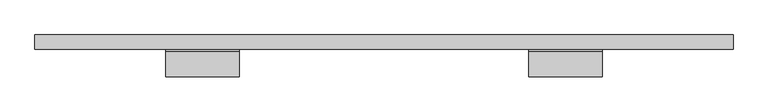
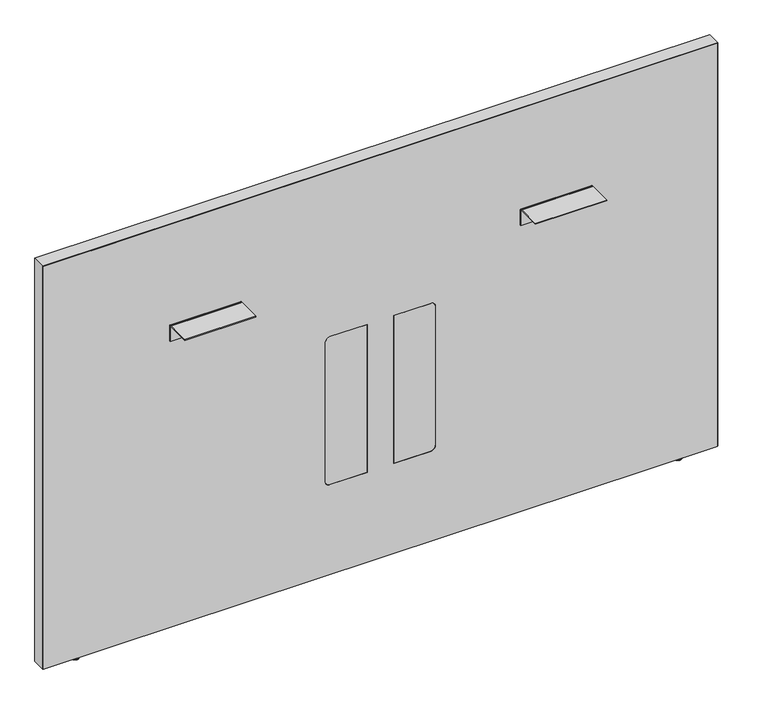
"""IFC4 building model written with IfcOpenShell, lengths in millimetres: furniture geometry, Steelcase - Answer Solution - Boundary Screen - Straight - Spanning : 36H x 57W."""

import ifcopenshell
import ifcopenshell.guid

model = None  # the IFC model being written
_history = None  # IfcOwnerHistory: only IFC2X3 demands one
_inside = {}  # id of a spatial element -> (the spatial element, [elements in it])
_under = {}  # id of a project, library or spatial element -> (it, [spatial elements below it])
_declared = {}  # id of a project -> (the project, [libraries it declares])
_typed = {}  # id of a type object -> (the type object, [elements of that type])
_made_of = {}  # id of a material, layer set ... -> (it, [elements and type objects made of it])


def new_model(schema):
    """Start an empty IFC model of exactly this schema.

    Asked for "IFC4X3", IfcOpenShell would pick the latest addendum, in which some entities
    have other attributes; the version numbers below select the first issue.
    IFC2X3 requires an IfcOwnerHistory on every rooted entity: one is made here for all.
    """
    global model, _history
    if schema == "IFC4X3":
        model = ifcopenshell.file(schema_version=(4, 3, 0, 0))
    else:
        model = ifcopenshell.file(schema=schema)
    _inside.clear()
    _under.clear()
    _declared.clear()
    _typed.clear()
    _made_of.clear()
    _history = None
    if model.schema == "IFC2X3":
        org = make("IfcOrganization", Name="unknown")
        user = make(
            "IfcPersonAndOrganization",
            ThePerson=make("IfcPerson", FamilyName="unknown"),
            TheOrganization=org,
        )
        app = make(
            "IfcApplication",
            ApplicationDeveloper=org,
            Version="unknown",
            ApplicationFullName="unknown",
            ApplicationIdentifier="unknown",
        )
        _history = make(
            "IfcOwnerHistory",
            OwningUser=user,
            OwningApplication=app,
            ChangeAction="ADDED",
            CreationDate=0,
        )
    return model


def make(cls, **values):
    """One entity of the class cls with the attributes given. An attribute that is None is left unset."""
    return model.create_entity(
        cls, **{name: value for name, value in values.items() if value is not None}
    )


def rooted(cls, **values):
    """An entity with a GlobalId (a new one), such as an element, a storey or a relation."""
    return make(cls, GlobalId=ifcopenshell.guid.new(), OwnerHistory=_history, **values)


def si_unit(unit_type, name, prefix=None):
    """IfcSIUnit, for example si_unit("LENGTHUNIT", "METRE", prefix="MILLI")."""
    return make("IfcSIUnit", UnitType=unit_type, Prefix=prefix, Name=name)


def assignment(units):
    """IfcUnitAssignment: the units of a project."""
    return None if units is None else make("IfcUnitAssignment", Units=units)


def point(xyz):
    """IfcCartesianPoint."""
    return None if xyz is None else make("IfcCartesianPoint", Coordinates=xyz)


def direction(xyz):
    """IfcDirection."""
    return None if xyz is None else make("IfcDirection", DirectionRatios=xyz)


def frame(location, z_axis=None, x_axis=None):
    """IfcAxis2Placement3D, a coordinate frame: its origin and axes. An axis left out is left unset."""
    return make(
        "IfcAxis2Placement3D",
        Location=point(location),
        Axis=direction(z_axis),
        RefDirection=direction(x_axis),
    )


def frame_2d(location, x_axis=None):
    """IfcAxis2Placement2D, a coordinate frame in the plane: its origin and x axis."""
    return make(
        "IfcAxis2Placement2D", Location=point(location), RefDirection=direction(x_axis)
    )


def origin():
    """The frame at (0, 0, 0) with its axes left unset."""
    return frame((0.0, 0.0, 0.0))


def place(relative_to, where):
    """IfcLocalPlacement: puts the frame where relative to a parent placement (None: the world)."""
    return make(
        "IfcLocalPlacement", PlacementRelTo=relative_to, RelativePlacement=where
    )


def context(
    kind, dimensions, precision=None, world=None, true_north=None, identifier=None
):
    """IfcGeometricRepresentationContext, for example the 3D "Model" context."""
    return make(
        "IfcGeometricRepresentationContext",
        ContextIdentifier=identifier,
        ContextType=kind,
        CoordinateSpaceDimension=dimensions,
        Precision=precision,
        WorldCoordinateSystem=world,
        TrueNorth=true_north,
    )


def project(units=None, contexts=None):
    """IfcProject with its units and contexts."""
    return rooted(
        "IfcProject",
        Name="project",
        RepresentationContexts=contexts,
        UnitsInContext=assignment(units),
    )


def spatial(cls, under=None, at=None, **own):
    """A site, building, storey or space (cls), placed at a placement, below another one or the project."""
    s = rooted(cls, ObjectPlacement=at, **own)
    if under is not None:
        _under.setdefault(under.id(), (under, []))[1].append(s)
    return s


def polyline(points):
    """IfcPolyline through the points."""
    return make("IfcPolyline", Points=[point(p) for p in points])


def circle_curve(where, radius):
    """IfcCircle in the frame where."""
    return make("IfcCircle", Position=where, Radius=radius)


def ellipse_curve(where, semi_axis1, semi_axis2):
    """IfcEllipse in the frame where."""
    return make(
        "IfcEllipse", Position=where, SemiAxis1=semi_axis1, SemiAxis2=semi_axis2
    )


def trimmed(basis, trim1, trim2, sense, master):
    """IfcTrimmedCurve: the piece of a basis curve between two trims."""
    return make(
        "IfcTrimmedCurve",
        BasisCurve=basis,
        Trim1=trim1,
        Trim2=trim2,
        SenseAgreement=sense,
        MasterRepresentation=master,
    )


def segment(curve, same_sense, transition):
    """IfcCompositeCurveSegment."""
    return make(
        "IfcCompositeCurveSegment",
        Transition=transition,
        SameSense=same_sense,
        ParentCurve=curve,
    )


def composite_curve(segments, self_intersect=None):
    """IfcCompositeCurve: segments joined end to end."""
    return make("IfcCompositeCurve", Segments=segments, SelfIntersect=self_intersect)


def outline(outer, holes=None, kind="AREA"):
    """IfcArbitraryClosedProfileDef: a profile drawn as a closed curve; with holes, ...WithVoids."""
    if holes is None:
        return make("IfcArbitraryClosedProfileDef", ProfileType=kind, OuterCurve=outer)
    return make(
        "IfcArbitraryProfileDefWithVoids",
        ProfileType=kind,
        OuterCurve=outer,
        InnerCurves=holes,
    )


def extrude(swept, where, along, depth):
    """IfcExtrudedAreaSolid: the profile swept, set in the frame where, extruded along a direction by depth."""
    return make(
        "IfcExtrudedAreaSolid",
        SweptArea=swept,
        Position=where,
        ExtrudedDirection=direction(along),
        Depth=depth,
    )


def shape(context_of_items, identifier, shape_type, items):
    """IfcShapeRepresentation: the items that make up one representation, for example the "Body"."""
    return make(
        "IfcShapeRepresentation",
        ContextOfItems=context_of_items,
        RepresentationIdentifier=identifier,
        RepresentationType=shape_type,
        Items=items,
    )


def source(mapping_origin, context_of_items, identifier, shape_type, items):
    """IfcRepresentationMap: a shape defined once, which mapped items show again and again."""
    return make(
        "IfcRepresentationMap",
        MappingOrigin=mapping_origin,
        MappedRepresentation=shape(context_of_items, identifier, shape_type, items),
    )


def transform(
    local_origin,
    x_axis=None,
    y_axis=None,
    z_axis=None,
    scale=None,
    scale2=None,
    scale3=None,
    uniform=True,
):
    """IfcCartesianTransformationOperator3D, or its non-uniform kind. x_axis, y_axis, z_axis: its Axis1, 2, 3."""
    if uniform:
        return make(
            "IfcCartesianTransformationOperator3D",
            Axis1=direction(x_axis),
            Axis2=direction(y_axis),
            LocalOrigin=point(local_origin),
            Scale=scale,
            Axis3=direction(z_axis),
        )
    return make(
        "IfcCartesianTransformationOperator3DnonUniform",
        Axis1=direction(x_axis),
        Axis2=direction(y_axis),
        LocalOrigin=point(local_origin),
        Scale=scale,
        Axis3=direction(z_axis),
        Scale2=scale2,
        Scale3=scale3,
    )


def mapped(mapping_source, mapping_target):
    """IfcMappedItem: shows the shape of a source again, moved by a transform."""
    return make(
        "IfcMappedItem", MappingSource=mapping_source, MappingTarget=mapping_target
    )


def made_of(thing, what):
    """Note that an element or type object is made of a material, layer set ...; save() writes the relation."""
    if what is not None:
        _made_of.setdefault(what.id(), (what, []))[1].append(thing)
    return thing


def element(
    cls,
    number,
    at=None,
    inside=None,
    cuts=None,
    type_object=None,
    material=None,
    context=None,
    identifier="Body",
    shape_type=None,
    held_by="IfcProductDefinitionShape",
    body=None,
    shapes=None,
    **own,
):
    """One element of the class cls, such as IfcWall. Its Tag is "e" and its number.

    at: its placement. inside: the storey or other place that contains it. cuts: it is an
    opening in that element (IfcRelVoidsElement). A single representation is given by context,
    identifier, shape_type and body (its items); several are given by shapes. held_by: the class
    of the entity that holds the representations. save() writes the other relations.
    """
    e = rooted(cls, Tag="e%d" % number, ObjectPlacement=at, **own)
    if body is not None:
        shapes = [shape(context, identifier, shape_type, body)]
    if shapes is not None:
        e.Representation = make(held_by, Representations=shapes)
    if inside is not None:
        _inside.setdefault(inside.id(), (inside, []))[1].append(e)
    if cuts is not None:
        rooted(
            "IfcRelVoidsElement", RelatingBuildingElement=cuts, RelatedOpeningElement=e
        )
    if type_object is not None:
        _typed.setdefault(type_object.id(), (type_object, []))[1].append(e)
    return made_of(e, material)


def aggregate(whole, parts):
    """IfcRelAggregates: a whole, such as a stair, and the parts it consists of."""
    return rooted("IfcRelAggregates", RelatingObject=whole, RelatedObjects=parts)


def save(model, path):
    """Write the relations noted so far, then the file.

    IfcRelAggregates (storeys below a building ...), IfcRelContainedInSpatialStructure (elements
    in a storey), IfcRelDefinesByType, IfcRelAssociatesMaterial and IfcRelDeclares: one each for
    every whole, place, type object, material and project.
    """
    for whole, parts in _under.values():
        aggregate(whole, parts)
    for where, things in _inside.values():
        rooted(
            "IfcRelContainedInSpatialStructure",
            RelatedElements=things,
            RelatingStructure=where,
        )
    for kind, things in _typed.values():
        rooted("IfcRelDefinesByType", RelatedObjects=things, RelatingType=kind)
    for what, things in _made_of.values():
        rooted("IfcRelAssociatesMaterial", RelatedObjects=things, RelatingMaterial=what)
    for by, libraries in _declared.values():
        rooted("IfcRelDeclares", RelatingContext=by, RelatedDefinitions=libraries)
    model.write(path)


def plane_surface(at):
    """IfcPlane: the flat surface through the origin of the frame at, square to its z axis."""
    return make("IfcPlane", Position=at)


def cylinder_surface(at, radius):
    """IfcCylindricalSurface: all points at the distance radius from the z axis of the frame at."""
    return make("IfcCylindricalSurface", Position=at, Radius=radius)


def revolved_surface(curve, axis_point, axis_direction):
    """IfcSurfaceOfRevolution: the curve turned about the line through axis_point along axis_direction."""
    return make(
        "IfcSurfaceOfRevolution",
        SweptCurve=make("IfcArbitraryOpenProfileDef", ProfileType="CURVE", Curve=curve),
        AxisPosition=make("IfcAxis1Placement", Location=point(axis_point), Axis=direction(axis_direction)),
    )


def advanced_brep(points, edges, surfaces, faces):
    """IfcAdvancedBrep: a solid bounded by faces that lie on surfaces and meet in shared edges.

    An edge is (start, end): straight between two places in points (the first is 0);
    or (start, end, curve); or (start, end, curve, False) where it runs against its curve.
    A face is (place in surfaces, loops), or (place, loops, False) where it looks against
    its surface's normal. A loop lists edges by number (the first is 1), with a minus sign
    where the edge is run from its end to its start. The first loop is the outer one.
    """
    corners = [point(p) for p in points]
    vertices = [make("IfcVertexPoint", VertexGeometry=c) for c in corners]
    made = []
    for start, end, *more in edges:
        made.append(
            make(
                "IfcEdgeCurve",
                EdgeStart=vertices[start],
                EdgeEnd=vertices[end],
                EdgeGeometry=more[0] if more else make("IfcPolyline", Points=[corners[start], corners[end]]),
                SameSense=more[1] if len(more) > 1 else True,
            )
        )
    hull = []
    for where, loops, *sense in faces:
        bounds = []
        for j, loop in enumerate(loops):
            ring = [make("IfcOrientedEdge", EdgeElement=made[abs(k) - 1], Orientation=k > 0) for k in loop]
            bounds.append(
                make(
                    "IfcFaceOuterBound" if j == 0 else "IfcFaceBound",
                    Bound=make("IfcEdgeLoop", EdgeList=ring),
                    Orientation=True,
                )
            )
        hull.append(make("IfcAdvancedFace", Bounds=bounds, FaceSurface=surfaces[where], SameSense=sense[0] if sense else True))
    return make("IfcAdvancedBrep", Outer=make("IfcClosedShell", CfsFaces=hull))


def furniture_13c14a07(model_context):
    return source(origin(), model_context, "Body", "SolidModel", [
        advanced_brep(
        [(-416.8902705, -14.8449166, 9.9059849), (-416.8902705, -5.9309607, 9.9059849), (-416.8902705, -23.7588726, 9.9059849), (-416.8902705, -5.9309607, 2.9673238), (-416.8902705, -23.7588726, 2.9673238), (-416.8902705, -6.8982978, 2.9673238), (-416.8902705, -22.7915354, 2.9673238), (-416.8902705, -6.8982978, 1.6569081), (-416.8902705, -22.7915354, 1.6569081), (-416.8902705, -8.5552059, 0.0), (-416.8902705, -21.1346274, 0.0), (-416.8902705, -14.8449166, 0.0)],
        [
            (0, 1),
            (1, 2, circle_curve(frame((-416.8902705, -14.8449166, 9.9059849), z_axis=(0.0, 0.0, 1.0), x_axis=(0.0, 1.0, 0.0)), 8.913956)),
            (2, 0),
            (2, 1, circle_curve(frame((-416.8902705, -14.8449166, 9.9059849), z_axis=(0.0, 0.0, 1.0), x_axis=(0.0, 1.0, 0.0)), 8.913956)),
            (1, 3),
            (3, 4, circle_curve(frame((-416.8902705, -14.8449166, 2.9673238), z_axis=(0.0, 0.0, 1.0), x_axis=(0.0, 1.0, 0.0)), 8.913956)),
            (4, 2),
            (4, 3, circle_curve(frame((-416.8902705, -14.8449166, 2.9673238), z_axis=(0.0, 0.0, 1.0), x_axis=(0.0, 1.0, 0.0)), 8.913956)),
            (3, 5),
            (5, 6, circle_curve(frame((-416.8902705, -14.8449166, 2.9673238), z_axis=(0.0, 0.0, 1.0), x_axis=(0.0, 1.0, 0.0)), 7.9466188)),
            (6, 4),
            (6, 5, circle_curve(frame((-416.8902705, -14.8449166, 2.9673238), z_axis=(0.0, 0.0, 1.0), x_axis=(0.0, 1.0, 0.0)), 7.9466188)),
            (5, 7),
            (7, 8, circle_curve(frame((-416.8902705, -14.8449166, 1.6569081), z_axis=(0.0, 0.0, 1.0), x_axis=(0.0, 1.0, 0.0)), 7.9466188)),
            (8, 6),
            (8, 7, circle_curve(frame((-416.8902705, -14.8449166, 1.6569081), z_axis=(0.0, 0.0, 1.0), x_axis=(0.0, 1.0, 0.0)), 7.9466188)),
            (7, 9, circle_curve(frame((-416.8902705, -8.5552059, 1.6569081), z_axis=(-1.0, 0.0, 0.0), x_axis=(0.0, 1.0, 0.0)), 1.6569081)),
            (9, 10, circle_curve(frame((-416.8902705, -14.8449166, 0.0), z_axis=(0.0, 0.0, 1.0), x_axis=(0.0, 1.0, 0.0)), 6.2897107)),
            (10, 8, circle_curve(frame((-416.8902705, -21.1346274, 1.6569081), z_axis=(-1.0, 0.0, 0.0), x_axis=(0.0, -1.0, 0.0)), 1.6569081)),
            (10, 9, circle_curve(frame((-416.8902705, -14.8449166, 0.0), z_axis=(0.0, 0.0, 1.0), x_axis=(0.0, 1.0, 0.0)), 6.2897107)),
            (9, 11),
            (11, 10),
        ],
        [
            plane_surface(frame((-416.8902705, -14.8449166, 9.9059849), z_axis=(0.0, 0.0, 1.0), x_axis=(0.0, 1.0, 0.0))),
            cylinder_surface(frame((-416.8902705, -14.8449166, 9.9059849), z_axis=(0.0, 0.0, 1.0), x_axis=(0.0, 1.0, 0.0)), 8.913956),
            plane_surface(frame((-416.8902705, -14.8449166, 2.9673238), z_axis=(0.0, 0.0, -1.0), x_axis=(0.0, 1.0, 0.0))),
            cylinder_surface(frame((-416.8902705, -14.8449166, 9.9059849), z_axis=(0.0, 0.0, 1.0), x_axis=(0.0, 1.0, 0.0)), 7.9466188),
            revolved_surface(trimmed(ellipse_curve(frame((-416.8902705, -8.5552059, 1.6569081), z_axis=(1.0, 0.0, 0.0), x_axis=(0.0, 1.0, 0.0)), 1.6569081, 1.6569081), [point((-416.8902705, -8.5552059, 0.0))], [point((-416.8902705, -6.8982978, 1.6569081))], True, "CARTESIAN"), (-416.8902705, -14.8449166, 9.9059849), (0.0, 0.0, 1.0)),
            plane_surface(frame((-416.8902705, -14.8449166, 0.0), z_axis=(0.0, 0.0, -1.0), x_axis=(0.0, 1.0, 0.0))),
        ],
        [
            (0, [[1, 2, 3]]),
            (0, [[-3, 4, -1]]),
            (1, [[-2, 5, 6, 7]]),
            (1, [[-4, -7, 8, -5]]),
            (2, [[-6, 9, 10, 11]]),
            (2, [[-8, -11, 12, -9]]),
            (3, [[-10, 13, 14, 15]]),
            (3, [[-12, -15, 16, -13]]),
            (4, [[-14, 17, 18, 19]]),
            (4, [[-16, -19, 20, -17]]),
            (5, [[-18, 21, 22]]),
            (5, [[-20, -22, -21]]),
        ],
    ),
        extrude(outline(composite_curve([segment(polyline([(-86.8398151, 696.4680019), (-86.8398151, 698.5), (-34.9450855, 698.5)]), True, "CONTINUOUS"), segment(trimmed(circle_curve(frame_2d((-34.9450855, 693.2447477)), 5.2552523), [point((-34.9450855, 698.5))], [point((-29.6898332, 693.2447477))], False, "CARTESIAN"), True, "CONTINUOUS"), segment(polyline([(-29.6898332, 693.2447477), (-29.6898332, 660.4), (-31.7218162, 660.4), (-31.7218162, 693.0058743)]), True, "CONTINUOUS"), segment(trimmed(circle_curve(frame_2d((-35.1839438, 693.0058743)), 3.4621276), [point((-31.7218162, 693.0058743))], [point((-35.1839438, 696.4680019))], True, "CARTESIAN"), True, "CONTINUOUS"), segment(polyline([(-35.1839438, 696.4680019), (-86.8398151, 696.4680019)]), True, "CONTINUOUS")], self_intersect=False)), frame((529.7282189, 0.0, 0.0), z_axis=(1.0, 0.0, 0.0), x_axis=(0.0, 1.0, 0.0)), (0.0, 0.0, 1.0), 152.4000969),
        extrude(outline(composite_curve([segment(polyline([(-86.8398151, 696.4680019), (-86.8398151, 698.5), (-34.9450855, 698.5)]), True, "CONTINUOUS"), segment(trimmed(circle_curve(frame_2d((-34.9450855, 693.2447477)), 5.2552523), [point((-34.9450855, 698.5))], [point((-29.6898332, 693.2447477))], False, "CARTESIAN"), True, "CONTINUOUS"), segment(polyline([(-29.6898332, 693.2447477), (-29.6898332, 660.4), (-31.7218162, 660.4), (-31.7218162, 693.0058743)]), True, "CONTINUOUS"), segment(trimmed(circle_curve(frame_2d((-35.1839438, 693.0058743)), 3.4621276), [point((-31.7218162, 693.0058743))], [point((-35.1839438, 696.4680019))], True, "CARTESIAN"), True, "CONTINUOUS"), segment(polyline([(-35.1839438, 696.4680019), (-86.8398151, 696.4680019)]), True, "CONTINUOUS")], self_intersect=False)), frame((-222.4884581, 0.0, 0.0), z_axis=(1.0, 0.0, 0.0), x_axis=(0.0, 1.0, 0.0)), (0.0, 0.0, 1.0), 152.4000969),
        advanced_brep(
        [(876.5286488, -23.7588726, 9.9059849), (876.5286488, -5.9309607, 9.9059849), (876.5286488, -14.8449166, 9.9059849), (876.5286488, -23.7588726, 2.9673238), (876.5286488, -5.9309607, 2.9673238), (876.5286488, -22.7915354, 2.9673238), (876.5286488, -6.8982978, 2.9673238), (876.5286488, -22.7915354, 1.6569081), (876.5286488, -6.8982978, 1.6569081), (876.5286488, -21.1346274, 0.0), (876.5286488, -8.5552059, 0.0), (876.5286488, -14.8449166, 0.0)],
        [
            (0, 1, circle_curve(frame((876.5286488, -14.8449166, 9.9059849), z_axis=(0.0, 0.0, 1.0), x_axis=(0.0, 1.0, 0.0)), 8.913956)),
            (1, 2),
            (2, 0),
            (1, 0, circle_curve(frame((876.5286488, -14.8449166, 9.9059849), z_axis=(0.0, 0.0, 1.0), x_axis=(0.0, 1.0, 0.0)), 8.913956)),
            (3, 4, circle_curve(frame((876.5286488, -14.8449166, 2.9673238), z_axis=(0.0, 0.0, 1.0), x_axis=(0.0, 1.0, 0.0)), 8.913956)),
            (4, 1),
            (0, 3),
            (4, 3, circle_curve(frame((876.5286488, -14.8449166, 2.9673238), z_axis=(0.0, 0.0, 1.0), x_axis=(0.0, 1.0, 0.0)), 8.913956)),
            (5, 6, circle_curve(frame((876.5286488, -14.8449166, 2.9673238), z_axis=(0.0, 0.0, 1.0), x_axis=(0.0, 1.0, 0.0)), 7.9466188)),
            (6, 4),
            (3, 5),
            (6, 5, circle_curve(frame((876.5286488, -14.8449166, 2.9673238), z_axis=(0.0, 0.0, 1.0), x_axis=(0.0, 1.0, 0.0)), 7.9466188)),
            (7, 8, circle_curve(frame((876.5286488, -14.8449166, 1.6569081), z_axis=(0.0, 0.0, 1.0), x_axis=(0.0, 1.0, 0.0)), 7.9466188)),
            (8, 6),
            (5, 7),
            (8, 7, circle_curve(frame((876.5286488, -14.8449166, 1.6569081), z_axis=(0.0, 0.0, 1.0), x_axis=(0.0, 1.0, 0.0)), 7.9466188)),
            (9, 10, circle_curve(frame((876.5286488, -14.8449166, 0.0), z_axis=(0.0, 0.0, 1.0), x_axis=(0.0, 1.0, 0.0)), 6.2897107)),
            (10, 8, circle_curve(frame((876.5286488, -8.5552059, 1.6569081), z_axis=(1.0, 0.0, 0.0), x_axis=(0.0, 1.0, 0.0)), 1.6569081)),
            (7, 9, circle_curve(frame((876.5286488, -21.1346274, 1.6569081), z_axis=(1.0, 0.0, 0.0), x_axis=(0.0, -1.0, 0.0)), 1.6569081)),
            (10, 9, circle_curve(frame((876.5286488, -14.8449166, 0.0), z_axis=(0.0, 0.0, 1.0), x_axis=(0.0, 1.0, 0.0)), 6.2897107)),
            (11, 10),
            (9, 11),
        ],
        [
            plane_surface(frame((876.5286488, -14.8449166, 9.9059849), z_axis=(0.0, 0.0, 1.0), x_axis=(0.0, 1.0, 0.0))),
            cylinder_surface(frame((876.5286488, -14.8449166, 9.9059849), z_axis=(0.0, 0.0, -1.0), x_axis=(0.0, 1.0, 0.0)), 8.913956),
            plane_surface(frame((876.5286488, -14.8449166, 2.9673238), z_axis=(0.0, 0.0, -1.0), x_axis=(0.0, 1.0, 0.0))),
            cylinder_surface(frame((876.5286488, -14.8449166, 9.9059849), z_axis=(0.0, 0.0, -1.0), x_axis=(0.0, 1.0, 0.0)), 7.9466188),
            revolved_surface(trimmed(ellipse_curve(frame((876.5286488, -8.5552059, 1.6569081), z_axis=(-1.0, 0.0, 0.0), x_axis=(0.0, 1.0, 0.0)), 1.6569081, 1.6569081), [point((876.5286488, -6.8982978, 1.6569081))], [point((876.5286488, -8.5552059, 0.0))], True, "CARTESIAN"), (876.5286488, -14.8449166, 9.9059849), (0.0, 0.0, -1.0)),
            plane_surface(frame((876.5286488, -14.8449166, 0.0), z_axis=(0.0, 0.0, -1.0), x_axis=(0.0, 1.0, 0.0))),
        ],
        [
            (0, [[1, 2, 3]]),
            (0, [[4, -3, -2]]),
            (1, [[5, 6, -1, 7]]),
            (1, [[8, -7, -4, -6]]),
            (2, [[9, 10, -5, 11]]),
            (2, [[12, -11, -8, -10]]),
            (3, [[13, 14, -9, 15]]),
            (3, [[16, -15, -12, -14]]),
            (4, [[17, 18, -13, 19]]),
            (4, [[20, -19, -16, -18]]),
            (5, [[21, -17, 22]]),
            (5, [[-22, -20, -21]]),
        ],
    ),
        advanced_brep(
        [(952.6780168, 0.0, 924.342118), (952.6780168, 0.0, 9.9059849), (-493.0902221, 0.0, 9.9059849), (-493.0902221, 0.0, 924.342118), (952.6780168, -29.6898332, 924.342118), (-493.0902221, -29.6898332, 924.342118), (-493.0902221, -29.6898332, 9.9059849), (952.6780168, -29.6898332, 9.9059849), (337.7883813, -29.6898332, 549.6162029), (347.9483813, -29.6898332, 539.4562029), (347.9483813, -29.6898332, 223.9362137), (337.7883813, -29.6898332, 213.7762137), (258.1344836, -29.6898332, 213.7762137), (258.1344836, -29.6898332, 549.6162029), (121.849997, -29.6898332, 549.6162029), (201.5038947, -29.6898332, 549.6162029), (201.5038947, -29.6898332, 213.7762137), (121.849997, -29.6898332, 213.7762137), (111.689997, -29.6898332, 223.9362137), (111.689997, -29.6898332, 539.4562029), (258.1344836, -29.0550397, 549.6162029), (337.7883813, -29.0550397, 549.6162029), (258.1344836, -29.0550397, 213.7762137), (337.7883813, -29.0550397, 213.7762137), (347.9483813, -29.0550397, 223.9362137), (347.9483813, -29.0550397, 539.4562029), (121.849997, -29.0550397, 549.6162029), (111.689997, -29.0550397, 539.4562029), (111.689997, -29.0550397, 223.9362137), (121.849997, -29.0550397, 213.7762137), (201.5038947, -29.0550397, 213.7762137), (201.5038947, -29.0550397, 549.6162029)],
        [
            (0, 1),
            (1, 2),
            (2, 3),
            (3, 0),
            (4, 5),
            (5, 6),
            (6, 7),
            (7, 4),
            (8, 9, circle_curve(frame((337.7883813, -29.6898332, 539.4562029), z_axis=(0.0, 1.0, 0.0), x_axis=(0.0, 0.0, 1.0)), 10.16)),
            (9, 10),
            (10, 11, circle_curve(frame((337.7883813, -29.6898332, 223.9362137), z_axis=(0.0, 1.0, 0.0), x_axis=(0.0, 0.0, 1.0)), 10.16)),
            (11, 12),
            (12, 13),
            (13, 8),
            (14, 15),
            (15, 16),
            (16, 17),
            (17, 18, circle_curve(frame((121.849997, -29.6898332, 223.9362137), z_axis=(0.0, 1.0, 0.0), x_axis=(0.0, 0.0, 1.0)), 10.16)),
            (18, 19),
            (19, 14, circle_curve(frame((121.849997, -29.6898332, 539.4562029), z_axis=(0.0, 1.0, 0.0), x_axis=(0.0, 0.0, 1.0)), 10.16)),
            (0, 4),
            (7, 1),
            (6, 2),
            (5, 3),
            (13, 20),
            (20, 21),
            (21, 8),
            (12, 22),
            (22, 20),
            (11, 23),
            (23, 22),
            (10, 24),
            (24, 23, circle_curve(frame((337.7883813, -29.0550397, 223.9362137), z_axis=(0.0, 1.0, 0.0), x_axis=(0.0, 0.0, 1.0)), 10.16)),
            (9, 25),
            (25, 24),
            (21, 25, circle_curve(frame((337.7883813, -29.0550397, 539.4562029), z_axis=(0.0, 1.0, 0.0), x_axis=(0.0, 0.0, 1.0)), 10.16)),
            (26, 27, circle_curve(frame((121.849997, -29.0550397, 539.4562029), z_axis=(0.0, -1.0, 0.0), x_axis=(0.0, 0.0, 1.0)), 10.16)),
            (27, 28),
            (28, 29, circle_curve(frame((121.849997, -29.0550397, 223.9362137), z_axis=(0.0, -1.0, 0.0), x_axis=(0.0, 0.0, 1.0)), 10.16)),
            (29, 30),
            (30, 31),
            (31, 26),
            (19, 27),
            (26, 14),
            (18, 28),
            (17, 29),
            (16, 30),
            (15, 31),
        ],
        [
            plane_surface(frame((952.6780168, 0.0, 924.342118), z_axis=(0.0, 1.0, 0.0), x_axis=(0.0, 0.0, -1.0))),
            plane_surface(frame((952.6780168, -29.6898332, 924.342118), z_axis=(0.0, -1.0, 0.0), x_axis=(0.0, 0.0, 1.0))),
            plane_surface(frame((952.6780168, 0.0, 924.342118), z_axis=(1.0, 0.0, 0.0), x_axis=(0.0, -1.0, 0.0))),
            plane_surface(frame((952.6780168, 0.0, 9.9059849), z_axis=(0.0, 0.0, -1.0), x_axis=(0.0, -1.0, 0.0))),
            plane_surface(frame((-493.0902221, 0.0, 9.9059849), z_axis=(-1.0, 0.0, 0.0), x_axis=(0.0, -1.0, 0.0))),
            plane_surface(frame((-493.0902221, 0.0, 924.342118), z_axis=(0.0, 0.0, 1.0), x_axis=(0.0, -1.0, 0.0))),
            plane_surface(frame((337.7883813, 0.0, 549.6162029), z_axis=(0.0, 0.0, -1.0), x_axis=(0.0, -1.0, 0.0))),
            plane_surface(frame((258.1344836, 0.0, 549.6162029), z_axis=(1.0, 0.0, 0.0), x_axis=(0.0, -1.0, 0.0))),
            plane_surface(frame((258.1344836, 0.0, 213.7762137), z_axis=(0.0, 0.0, 1.0), x_axis=(0.0, -1.0, 0.0))),
            revolved_surface(polyline([(337.7883813, -29.6898332, 234.0962137), (337.7883813, -29.0550397, 234.0962137)]), (337.7883813, -29.6898332, 223.9362137), (0.0, -1.0, 0.0)),
            plane_surface(frame((347.9483813, 0.0, 223.9362137), z_axis=(-1.0, 0.0, 0.0), x_axis=(0.0, -1.0, 0.0))),
            revolved_surface(polyline([(337.7883813, -29.6898332, 549.6162029), (337.7883813, -29.0550397, 549.6162029)]), (337.7883813, -29.6898332, 539.4562029), (0.0, -1.0, 0.0)),
            plane_surface(frame((347.9483813, -29.0550397, 549.6162029), z_axis=(0.0, -1.0, 0.0), x_axis=(0.0, 0.0, 1.0))),
            revolved_surface(polyline([(121.849997, -29.6898332, 549.6162029), (121.849997, -29.0550397, 549.6162029)]), (121.849997, -29.6898332, 539.4562029), (0.0, -1.0, 0.0)),
            plane_surface(frame((111.689997, 0.0, 539.4562029), z_axis=(1.0, 0.0, 0.0), x_axis=(0.0, -1.0, 0.0))),
            revolved_surface(polyline([(121.849997, -29.6898332, 234.0962137), (121.849997, -29.0550397, 234.0962137)]), (121.849997, -29.6898332, 223.9362137), (0.0, -1.0, 0.0)),
            plane_surface(frame((121.849997, 0.0, 213.7762137), z_axis=(0.0, 0.0, 1.0), x_axis=(0.0, -1.0, 0.0))),
            plane_surface(frame((201.5038947, 0.0, 213.7762137), z_axis=(-1.0, 0.0, 0.0), x_axis=(0.0, -1.0, 0.0))),
            plane_surface(frame((201.5038947, 0.0, 549.6162029), z_axis=(0.0, 0.0, -1.0), x_axis=(0.0, -1.0, 0.0))),
        ],
        [
            (0, [[1, 2, 3, 4]]),
            (1, [[5, 6, 7, 8], [9, 10, 11, 12, 13, 14], [15, 16, 17, 18, 19, 20]]),
            (2, [[-1, 21, -8, 22]]),
            (3, [[-2, -22, -7, 23]]),
            (4, [[-3, -23, -6, 24]]),
            (5, [[-4, -24, -5, -21]]),
            (6, [[-14, 25, 26, 27]]),
            (7, [[-13, 28, 29, -25]]),
            (8, [[-12, 30, 31, -28]]),
            (9, [[-11, 32, 33, -30]]),
            (10, [[-10, 34, 35, -32]]),
            (11, [[-9, -27, 36, -34]]),
            (12, [[-26, -29, -31, -33, -35, -36]]),
            (12, [[37, 38, 39, 40, 41, 42]]),
            (13, [[-20, 43, -37, 44]]),
            (14, [[-19, 45, -38, -43]]),
            (15, [[-18, 46, -39, -45]]),
            (16, [[-17, 47, -40, -46]]),
            (17, [[-16, 48, -41, -47]]),
            (18, [[-15, -44, -42, -48]]),
        ],
    ),
        extrude(outline(composite_curve([segment(polyline([(549.6162029, 337.7883813), (549.6162029, 258.1344836), (213.7762137, 258.1344836), (213.7762137, 337.7883813)]), True, "CONTINUOUS"), segment(trimmed(circle_curve(frame_2d((223.9362137, 337.7883813)), 10.16), [point((213.7762137, 337.7883813))], [point((223.9362137, 347.9483813))], False, "CARTESIAN"), True, "CONTINUOUS"), segment(polyline([(223.9362137, 347.9483813), (539.4562029, 347.9483813)]), True, "CONTINUOUS"), segment(trimmed(circle_curve(frame_2d((539.4562029, 337.7883813)), 10.16), [point((539.4562029, 347.9483813))], [point((549.6162029, 337.7883813))], False, "CARTESIAN"), True, "CONTINUOUS")], self_intersect=False)), frame((0.0, -29.6898332, 0.0), z_axis=(0.0, 1.0, 0.0), x_axis=(0.0, 0.0, 1.0)), (0.0, 0.0, 1.0), 0.6347935),
        extrude(outline(composite_curve([segment(trimmed(circle_curve(frame_2d((539.4562029, 121.849997)), 10.16), [point((549.6162029, 121.849997))], [point((539.4562029, 111.689997))], False, "CARTESIAN"), True, "CONTINUOUS"), segment(polyline([(539.4562029, 111.689997), (223.9362137, 111.689997)]), True, "CONTINUOUS"), segment(trimmed(circle_curve(frame_2d((223.9362137, 121.849997)), 10.16), [point((223.9362137, 111.689997))], [point((213.7762137, 121.849997))], False, "CARTESIAN"), True, "CONTINUOUS"), segment(polyline([(213.7762137, 121.849997), (213.7762137, 201.5038947), (549.6162029, 201.5038947), (549.6162029, 121.849997)]), True, "CONTINUOUS")], self_intersect=False)), frame((0.0, -29.6898332, 0.0), z_axis=(0.0, 1.0, 0.0), x_axis=(0.0, 0.0, 1.0)), (0.0, 0.0, 1.0), 0.6347935),
        extrude(outline(polyline([(925.322, 953.7191891), (925.322, -494.0808109), (9.9059849, -494.0808109), (9.9059849, -493.0902221), (924.342118, -493.0902221), (924.342118, 952.6780168), (9.9059849, 952.6780168), (9.9059849, 953.7191891), (925.322, 953.7191891)])), frame((0.0, -29.6898332, 0.0), z_axis=(0.0, 1.0, 0.0), x_axis=(0.0, 0.0, 1.0)), (0.0, 0.0, 1.0), 29.6898332),
    ])


if __name__ == "__main__":
    model = new_model("IFC4")
    model_context = context("Model", 3, world=origin())
    ifc_project = project(units=[si_unit("LENGTHUNIT", "METRE", prefix="MILLI")], contexts=[model_context])
    site = spatial("IfcSite", under=ifc_project)
    building = spatial("IfcBuilding", under=site)
    placement = place(None, origin())
    furniture_shape = furniture_13c14a07(model_context)
    element("IfcFurniture", 1, ObjectType="Steelcase - Answer Solution - Boundary Screen - Straight - Spanning : 36H x 57W", at=placement, inside=building, context=model_context, shape_type="MappedRepresentation", body=[
        mapped(furniture_shape, transform((0.0, 0.0, 0.0), x_axis=(1.0, 0.0, 0.0), y_axis=(0.0, 1.0, 0.0), z_axis=(0.0, 0.0, 1.0))),
    ])
    save(model, "model.ifc")
